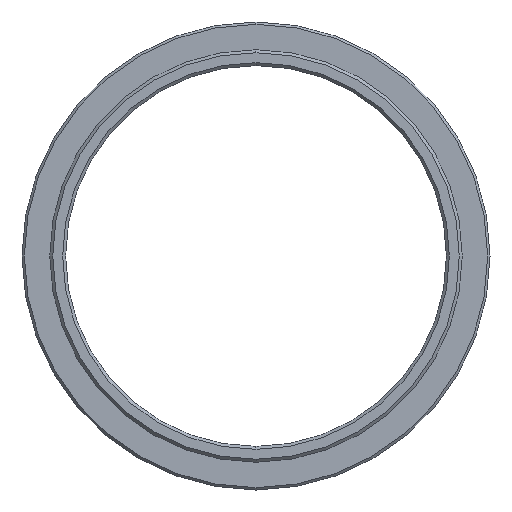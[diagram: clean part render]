
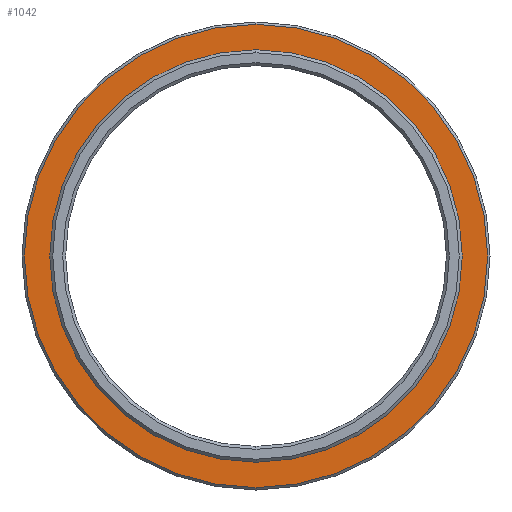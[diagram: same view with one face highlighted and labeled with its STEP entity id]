
A CAD part, left-side view. The second image highlights one B-rep face of the part: STEP entity #1042.
In plain terms, the highlighted planar face has unit normal (-1, 0, 0).
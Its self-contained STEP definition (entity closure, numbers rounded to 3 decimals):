
#26 = DIRECTION ( 'NONE',  ( 0., 0., 1. ) ) ;
#43 = AXIS2_PLACEMENT_3D ( 'NONE', #203, #822, #295 ) ;
#56 = AXIS2_PLACEMENT_3D ( 'NONE', #166, #640, #124 ) ;
#99 = PLANE ( 'NONE',  #1017 ) ;
#117 = CARTESIAN_POINT ( 'NONE',  ( 3., 0., 0. ) ) ;
#124 = DIRECTION ( 'NONE',  ( 0., 0., 1. ) ) ;
#148 = ORIENTED_EDGE ( 'NONE', *, *, #196, .F. ) ;
#151 = ORIENTED_EDGE ( 'NONE', *, *, #448, .T. ) ;
#152 = ORIENTED_EDGE ( 'NONE', *, *, #548, .T. ) ;
#159 = FACE_OUTER_BOUND ( 'NONE', #1021, .T. ) ;
#162 = AXIS2_PLACEMENT_3D ( 'NONE', #1069, #547, #26 ) ;
#166 = CARTESIAN_POINT ( 'NONE',  ( 3., 0., 0. ) ) ;
#176 = DIRECTION ( 'NONE',  ( 1., 0., 0. ) ) ;
#178 = CIRCLE ( 'NONE', #43, 25.625 ) ;
#196 = EDGE_CURVE ( 'NONE', #805, #327, #542, .T. ) ;
#203 = CARTESIAN_POINT ( 'NONE',  ( 3., 0., 0. ) ) ;
#295 = DIRECTION ( 'NONE',  ( 0., 0., 1. ) ) ;
#314 = DIRECTION ( 'NONE',  ( -1., 0., 0. ) ) ;
#327 = VERTEX_POINT ( 'NONE', #933 ) ;
#356 = CIRCLE ( 'NONE', #162, 29.2 ) ;
#375 = FACE_BOUND ( 'NONE', #543, .T. ) ;
#411 = CARTESIAN_POINT ( 'NONE',  ( 3., 0., 29.2 ) ) ;
#448 = EDGE_CURVE ( 'NONE', #553, #1095, #356, .T. ) ;
#473 = ORIENTED_EDGE ( 'NONE', *, *, #738, .F. ) ;
#489 = AXIS2_PLACEMENT_3D ( 'NONE', #117, #314, #871 ) ;
#542 = CIRCLE ( 'NONE', #56, 25.625 ) ;
#543 = EDGE_LOOP ( 'NONE', ( #473, #148 ) ) ;
#547 = DIRECTION ( 'NONE',  ( -1., 0., 0. ) ) ;
#548 = EDGE_CURVE ( 'NONE', #1095, #553, #584, .T. ) ;
#553 = VERTEX_POINT ( 'NONE', #411 ) ;
#584 = CIRCLE ( 'NONE', #489, 29.2 ) ;
#640 = DIRECTION ( 'NONE',  ( -1., 0., 0. ) ) ;
#655 = CARTESIAN_POINT ( 'NONE',  ( 3., 0., -25.625 ) ) ;
#699 = CARTESIAN_POINT ( 'NONE',  ( 3., 0., -29.2 ) ) ;
#738 = EDGE_CURVE ( 'NONE', #327, #805, #178, .T. ) ;
#793 = DIRECTION ( 'NONE',  ( 0., 0., -1. ) ) ;
#805 = VERTEX_POINT ( 'NONE', #655 ) ;
#822 = DIRECTION ( 'NONE',  ( -1., 0., 0. ) ) ;
#871 = DIRECTION ( 'NONE',  ( 0., 0., 1. ) ) ;
#873 = CARTESIAN_POINT ( 'NONE',  ( 3., 25.625, 0. ) ) ;
#933 = CARTESIAN_POINT ( 'NONE',  ( 3., 0., 25.625 ) ) ;
#1017 = AXIS2_PLACEMENT_3D ( 'NONE', #873, #176, #793 ) ;
#1021 = EDGE_LOOP ( 'NONE', ( #152, #151 ) ) ;
#1042 = ADVANCED_FACE ( 'NONE', ( #375, #159 ), #99, .F. ) ;
#1069 = CARTESIAN_POINT ( 'NONE',  ( 3., 0., 0. ) ) ;
#1095 = VERTEX_POINT ( 'NONE', #699 ) ;
